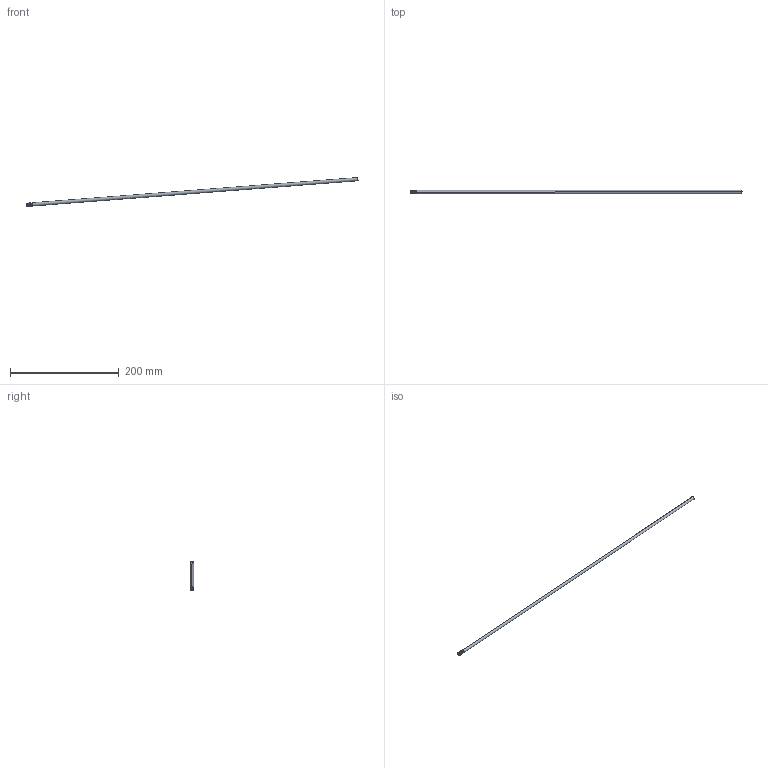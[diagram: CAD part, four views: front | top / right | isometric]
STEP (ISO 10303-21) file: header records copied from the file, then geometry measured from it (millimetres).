
FILE_DESCRIPTION((''),'2;1');
FILE_NAME('0000237292_PRT','2025-11-12T18:36:46',('Wyndorps'),(''),'CREO PARAMETRIC BY PTC INC, 2025010','CREO PARAMETRIC BY PTC INC, 2025010','');
FILE_SCHEMA(('CONFIG_CONTROL_DESIGN'));
Length unit declared in the file: millimetre
Products named in the file (1): 0000237292_PRT
Bounding box: 609.67 x 6 x 53.06 mm (x, y, z)
Volume: 17127.1 mm3; surface area: 11757.2 mm2
Topology: 1 solids, 2 shells, 44 faces, 108 edges, 67 vertices
Faces by surface type: cylinder 23, bspline 9, cone 6, plane 4, torus 2
Entity records: 6050 total; most frequent: CARTESIAN_POINT 5079, ORIENTED_EDGE 208, DIRECTION 156, EDGE_CURVE 106, VERTEX_POINT 67, AXIS2_PLACEMENT_3D 62, B_SPLINE_CURVE_WITH_KNOTS 48, EDGE_LOOP 47
